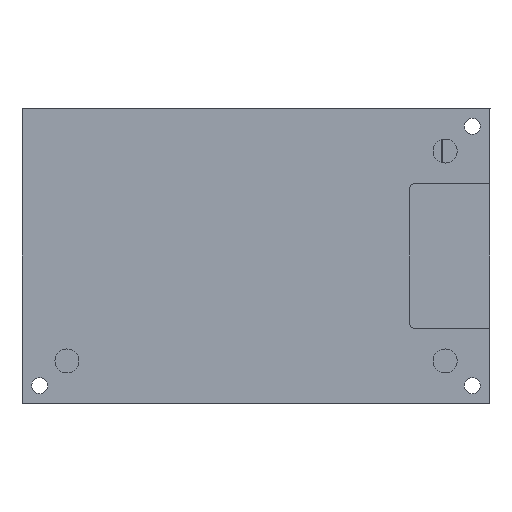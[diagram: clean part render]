
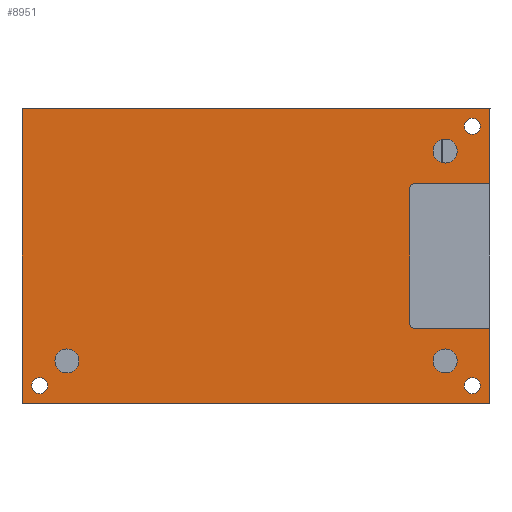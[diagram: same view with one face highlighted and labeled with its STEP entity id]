
A CAD part, front view. The second image highlights one B-rep face of the part: STEP entity #8951.
In plain terms, the highlighted planar face has unit normal (0, -1, 0).
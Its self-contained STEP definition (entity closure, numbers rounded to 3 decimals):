
#7811=DIRECTION('',(0.,0.,-1.));
#7812=VECTOR('',#7811,9.4);
#7813=CARTESIAN_POINT('',(-29.2,0.25,-9.));
#7814=LINE('',#7813,#7812);
#7835=DIRECTION('',(0.,0.,-1.));
#7836=VECTOR('',#7835,9.4);
#7837=CARTESIAN_POINT('',(-29.2,0.25,18.4));
#7838=LINE('',#7837,#7836);
#7873=CARTESIAN_POINT('',(-19.7,0.25,-8.5));
#7874=DIRECTION('',(0.,-1.,0.));
#7875=DIRECTION('',(0.,0.,-1.));
#7876=AXIS2_PLACEMENT_3D('',#7873,#7874,#7875);
#7878=CARTESIAN_POINT('',(-19.7,0.25,8.5));
#7879=DIRECTION('',(0.,-1.,0.));
#7880=DIRECTION('',(1.,0.,0.));
#7881=AXIS2_PLACEMENT_3D('',#7878,#7879,#7880);
#7883=DIRECTION('',(-1.,0.,0.));
#7884=VECTOR('',#7883,9.5);
#7885=CARTESIAN_POINT('',(-19.7,0.25,9.));
#7886=LINE('',#7885,#7884);
#7887=CARTESIAN_POINT('',(-23.6,0.25,13.1));
#7888=DIRECTION('',(0.,-1.,0.));
#7889=DIRECTION('',(-1.,0.,0.));
#7890=AXIS2_PLACEMENT_3D('',#7887,#7888,#7889);
#7892=CARTESIAN_POINT('',(-23.6,0.25,13.1));
#7893=DIRECTION('',(0.,-1.,0.));
#7894=DIRECTION('',(1.,0.,0.));
#7895=AXIS2_PLACEMENT_3D('',#7892,#7893,#7894);
#7897=CARTESIAN_POINT('',(23.6,0.25,13.1));
#7898=DIRECTION('',(0.,-1.,0.));
#7899=DIRECTION('',(-1.,0.,0.));
#7900=AXIS2_PLACEMENT_3D('',#7897,#7898,#7899);
#7902=CARTESIAN_POINT('',(23.6,0.25,13.1));
#7903=DIRECTION('',(0.,-1.,0.));
#7904=DIRECTION('',(1.,0.,0.));
#7905=AXIS2_PLACEMENT_3D('',#7902,#7903,#7904);
#7907=CARTESIAN_POINT('',(-27.,0.25,-16.2));
#7908=DIRECTION('',(0.,-1.,0.));
#7909=DIRECTION('',(-1.,0.,0.));
#7910=AXIS2_PLACEMENT_3D('',#7907,#7908,#7909);
#7912=CARTESIAN_POINT('',(-27.,0.25,-16.2));
#7913=DIRECTION('',(0.,-1.,0.));
#7914=DIRECTION('',(1.,0.,0.));
#7915=AXIS2_PLACEMENT_3D('',#7912,#7913,#7914);
#7917=CARTESIAN_POINT('',(-27.,0.25,16.2));
#7918=DIRECTION('',(0.,-1.,0.));
#7919=DIRECTION('',(-1.,0.,0.));
#7920=AXIS2_PLACEMENT_3D('',#7917,#7918,#7919);
#7922=CARTESIAN_POINT('',(-27.,0.25,16.2));
#7923=DIRECTION('',(0.,-1.,0.));
#7924=DIRECTION('',(1.,0.,0.));
#7925=AXIS2_PLACEMENT_3D('',#7922,#7923,#7924);
#7927=CARTESIAN_POINT('',(27.,0.25,16.2));
#7928=DIRECTION('',(0.,-1.,0.));
#7929=DIRECTION('',(-1.,0.,0.));
#7930=AXIS2_PLACEMENT_3D('',#7927,#7928,#7929);
#7932=CARTESIAN_POINT('',(27.,0.25,16.2));
#7933=DIRECTION('',(0.,-1.,0.));
#7934=DIRECTION('',(1.,0.,0.));
#7935=AXIS2_PLACEMENT_3D('',#7932,#7933,#7934);
#7937=CARTESIAN_POINT('',(-23.6,0.25,-13.1));
#7938=DIRECTION('',(0.,-1.,0.));
#7939=DIRECTION('',(-1.,0.,0.));
#7940=AXIS2_PLACEMENT_3D('',#7937,#7938,#7939);
#7942=CARTESIAN_POINT('',(-23.6,0.25,-13.1));
#7943=DIRECTION('',(0.,-1.,0.));
#7944=DIRECTION('',(1.,0.,0.));
#7945=AXIS2_PLACEMENT_3D('',#7942,#7943,#7944);
#7947=DIRECTION('',(-1.,0.,0.));
#7948=VECTOR('',#7947,9.5);
#7949=CARTESIAN_POINT('',(-19.7,0.25,-9.));
#7950=LINE('',#7949,#7948);
#7959=DIRECTION('',(0.,0.,-1.));
#7960=VECTOR('',#7959,17.);
#7961=CARTESIAN_POINT('',(-19.2,0.25,8.5));
#7962=LINE('',#7961,#7960);
#7975=DIRECTION('',(-1.,0.,0.));
#7976=VECTOR('',#7975,58.4);
#7977=CARTESIAN_POINT('',(29.2,0.25,18.4));
#7978=LINE('',#7977,#7976);
#8318=DIRECTION('',(1.,0.,0.));
#8319=VECTOR('',#8318,58.4);
#8320=CARTESIAN_POINT('',(-29.2,0.25,-18.4));
#8321=LINE('',#8320,#8319);
#8350=DIRECTION('',(0.,0.,1.));
#8351=VECTOR('',#8350,36.8);
#8352=CARTESIAN_POINT('',(29.2,0.25,-18.4));
#8353=LINE('',#8352,#8351);
#8577=CARTESIAN_POINT('',(-29.2,0.25,-9.));
#8578=VERTEX_POINT('',#8577);
#8579=CARTESIAN_POINT('',(-29.2,0.25,-18.4));
#8580=VERTEX_POINT('',#8579);
#8593=CARTESIAN_POINT('',(-29.2,0.25,18.4));
#8594=VERTEX_POINT('',#8593);
#8595=CARTESIAN_POINT('',(-29.2,0.25,9.));
#8596=VERTEX_POINT('',#8595);
#8605=CARTESIAN_POINT('',(-19.7,0.25,9.));
#8606=VERTEX_POINT('',#8605);
#8607=CARTESIAN_POINT('',(-19.2,0.25,8.5));
#8608=VERTEX_POINT('',#8607);
#8609=CARTESIAN_POINT('',(-19.7,0.25,-9.));
#8610=VERTEX_POINT('',#8609);
#8611=CARTESIAN_POINT('',(-19.2,0.25,-8.5));
#8612=VERTEX_POINT('',#8611);
#8613=CARTESIAN_POINT('',(29.2,0.25,18.4));
#8614=VERTEX_POINT('',#8613);
#8615=CARTESIAN_POINT('',(29.2,0.25,-18.4));
#8616=VERTEX_POINT('',#8615);
#8617=CARTESIAN_POINT('',(-25.1,0.25,13.1));
#8618=CARTESIAN_POINT('',(-22.1,0.25,13.1));
#8619=VERTEX_POINT('',#8617);
#8620=VERTEX_POINT('',#8618);
#8621=CARTESIAN_POINT('',(22.1,0.25,13.1));
#8622=CARTESIAN_POINT('',(25.1,0.25,13.1));
#8623=VERTEX_POINT('',#8621);
#8624=VERTEX_POINT('',#8622);
#8625=CARTESIAN_POINT('',(-28.,0.25,-16.2));
#8626=CARTESIAN_POINT('',(-26.,0.25,-16.2));
#8627=VERTEX_POINT('',#8625);
#8628=VERTEX_POINT('',#8626);
#8629=CARTESIAN_POINT('',(-28.,0.25,16.2));
#8630=CARTESIAN_POINT('',(-26.,0.25,16.2));
#8631=VERTEX_POINT('',#8629);
#8632=VERTEX_POINT('',#8630);
#8633=CARTESIAN_POINT('',(26.,0.25,16.2));
#8634=CARTESIAN_POINT('',(28.,0.25,16.2));
#8635=VERTEX_POINT('',#8633);
#8636=VERTEX_POINT('',#8634);
#8637=CARTESIAN_POINT('',(-25.1,0.25,-13.1));
#8638=CARTESIAN_POINT('',(-22.1,0.25,-13.1));
#8639=VERTEX_POINT('',#8637);
#8640=VERTEX_POINT('',#8638);
#8892=CARTESIAN_POINT('',(39.551,0.25,18.4));
#8893=DIRECTION('',(0.,1.,0.));
#8894=DIRECTION('',(-1.,0.,0.));
#8895=AXIS2_PLACEMENT_3D('',#8892,#8893,#8894);
#8896=PLANE('',#8895);
#8898=ORIENTED_EDGE('',*,*,#8897,.F.);
#8900=ORIENTED_EDGE('',*,*,#8899,.T.);
#8902=ORIENTED_EDGE('',*,*,#8901,.F.);
#8903=ORIENTED_EDGE('',*,*,#8872,.T.);
#8904=ORIENTED_EDGE('',*,*,#8887,.T.);
#8905=ORIENTED_EDGE('',*,*,#8838,.F.);
#8907=ORIENTED_EDGE('',*,*,#8906,.F.);
#8909=ORIENTED_EDGE('',*,*,#8908,.F.);
#8911=ORIENTED_EDGE('',*,*,#8910,.F.);
#8912=ORIENTED_EDGE('',*,*,#8822,.F.);
#8913=EDGE_LOOP('',(#8898,#8900,#8902,#8903,#8904,#8905,#8907,#8909,#8911,
#8912));
#8914=FACE_OUTER_BOUND('',#8913,.F.);
#8916=ORIENTED_EDGE('',*,*,#8915,.T.);
#8918=ORIENTED_EDGE('',*,*,#8917,.T.);
#8919=EDGE_LOOP('',(#8916,#8918));
#8920=FACE_BOUND('',#8919,.F.);
#8922=ORIENTED_EDGE('',*,*,#8921,.T.);
#8924=ORIENTED_EDGE('',*,*,#8923,.T.);
#8925=EDGE_LOOP('',(#8922,#8924));
#8926=FACE_BOUND('',#8925,.F.);
#8928=ORIENTED_EDGE('',*,*,#8927,.T.);
#8930=ORIENTED_EDGE('',*,*,#8929,.T.);
#8931=EDGE_LOOP('',(#8928,#8930));
#8932=FACE_BOUND('',#8931,.F.);
#8934=ORIENTED_EDGE('',*,*,#8933,.T.);
#8936=ORIENTED_EDGE('',*,*,#8935,.T.);
#8937=EDGE_LOOP('',(#8934,#8936));
#8938=FACE_BOUND('',#8937,.F.);
#8940=ORIENTED_EDGE('',*,*,#8939,.T.);
#8942=ORIENTED_EDGE('',*,*,#8941,.T.);
#8943=EDGE_LOOP('',(#8940,#8942));
#8944=FACE_BOUND('',#8943,.F.);
#8946=ORIENTED_EDGE('',*,*,#8945,.T.);
#8948=ORIENTED_EDGE('',*,*,#8947,.T.);
#8949=EDGE_LOOP('',(#8946,#8948));
#8950=FACE_BOUND('',#8949,.F.);
#8951=ADVANCED_FACE('',(#8914,#8920,#8926,#8932,#8938,#8944,#8950),#8896,.F.);
#7877=CIRCLE('',#7876,0.5);
#7882=CIRCLE('',#7881,0.5);
#7891=CIRCLE('',#7890,1.5);
#7896=CIRCLE('',#7895,1.5);
#7901=CIRCLE('',#7900,1.5);
#7906=CIRCLE('',#7905,1.5);
#7911=CIRCLE('',#7910,1.);
#7916=CIRCLE('',#7915,1.);
#7921=CIRCLE('',#7920,1.);
#7926=CIRCLE('',#7925,1.);
#7931=CIRCLE('',#7930,1.);
#7936=CIRCLE('',#7935,1.);
#7941=CIRCLE('',#7940,1.5);
#7946=CIRCLE('',#7945,1.5);
#8822=EDGE_CURVE('',#8578,#8580,#7814,.T.);
#8838=EDGE_CURVE('',#8594,#8596,#7838,.T.);
#8872=EDGE_CURVE('',#8608,#8606,#7882,.T.);
#8887=EDGE_CURVE('',#8606,#8596,#7886,.T.);
#8897=EDGE_CURVE('',#8610,#8578,#7950,.T.);
#8899=EDGE_CURVE('',#8610,#8612,#7877,.T.);
#8901=EDGE_CURVE('',#8608,#8612,#7962,.T.);
#8906=EDGE_CURVE('',#8614,#8594,#7978,.T.);
#8908=EDGE_CURVE('',#8616,#8614,#8353,.T.);
#8910=EDGE_CURVE('',#8580,#8616,#8321,.T.);
#8915=EDGE_CURVE('',#8619,#8620,#7891,.T.);
#8917=EDGE_CURVE('',#8620,#8619,#7896,.T.);
#8921=EDGE_CURVE('',#8623,#8624,#7901,.T.);
#8923=EDGE_CURVE('',#8624,#8623,#7906,.T.);
#8927=EDGE_CURVE('',#8627,#8628,#7911,.T.);
#8929=EDGE_CURVE('',#8628,#8627,#7916,.T.);
#8933=EDGE_CURVE('',#8631,#8632,#7921,.T.);
#8935=EDGE_CURVE('',#8632,#8631,#7926,.T.);
#8939=EDGE_CURVE('',#8635,#8636,#7931,.T.);
#8941=EDGE_CURVE('',#8636,#8635,#7936,.T.);
#8945=EDGE_CURVE('',#8639,#8640,#7941,.T.);
#8947=EDGE_CURVE('',#8640,#8639,#7946,.T.);
